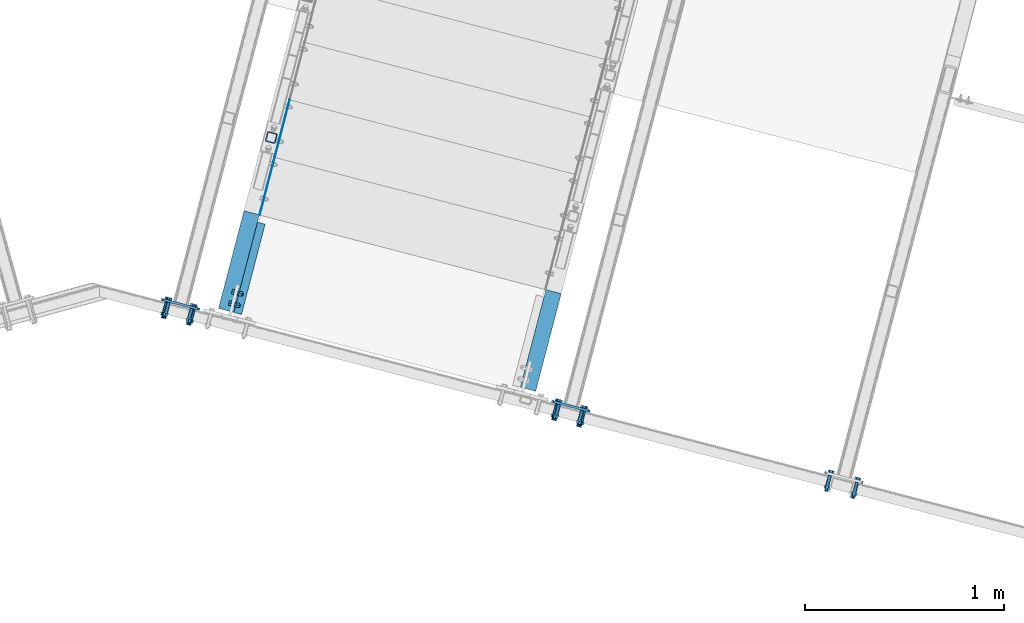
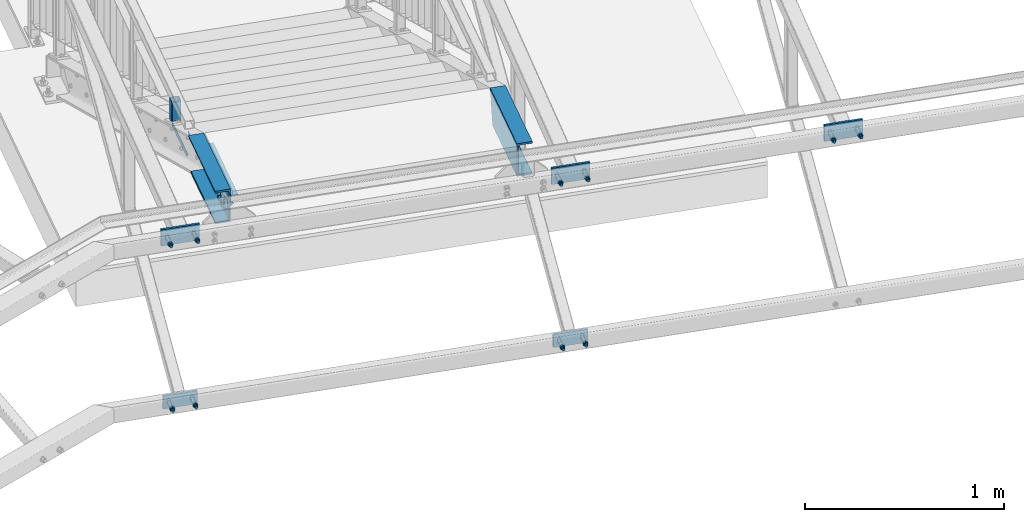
# One storey, part 88 of 169: 11 discrete accessories, 6 mechanical fasteners, 9 elements without a shape of their own.
"""IFC2X3 building model written with IfcOpenShell, lengths in millimetres."""

from ifc_helpers import new_model, si_unit, frame, frame_2d, origin_with_axes, origin_2d_with_axis, place, context, subcontext, project, spatial, polyline, circle_curve, parameter, trimmed, segment, composite_curve, rectangle, hollow_rectangle, circle, l_section, u_section, outline, extrude, boolean, clip, halfspace, source, transform, mapped, material, type_object, element, aggregate, save


model = new_model("IFC2X3")

# Units and contexts
model_context = context("Model", 3, precision=1e-05, world=origin_with_axes())
body_context = subcontext(model_context, "Body", "Model", "MODEL_VIEW")
ifc_project = project(units=[si_unit("LENGTHUNIT", "METRE", prefix="MILLI"), si_unit("AREAUNIT", "SQUARE_METRE"), si_unit("VOLUMEUNIT", "CUBIC_METRE"), si_unit("MASSUNIT", "GRAM", prefix="KILO"), si_unit("TIMEUNIT", "SECOND"), si_unit("PLANEANGLEUNIT", "RADIAN"), si_unit("SOLIDANGLEUNIT", "STERADIAN"), si_unit("THERMODYNAMICTEMPERATUREUNIT", "DEGREE_CELSIUS"), si_unit("LUMINOUSINTENSITYUNIT", "LUMEN")], contexts=[model_context])

# Site, building, storey
site_placement = place(None, origin_with_axes())
site = spatial("IfcSite", under=ifc_project, at=site_placement, Name="Undefined", CompositionType="ELEMENT")
building_placement = place(site_placement, origin_with_axes())
building = spatial("IfcBuilding", under=site, at=building_placement, Name="Undefined", CompositionType="ELEMENT")
storey_placement = place(building_placement, origin_with_axes())
storey = spatial("IfcBuildingStorey", under=building, at=storey_placement, Name="Undefined", CompositionType="ELEMENT", Elevation=0.0)

# Assembly, discrete accessories
assembly_1_placement = place(storey_placement, origin_with_axes())
assembly_1 = element("IfcElementAssembly", 1, at=assembly_1_placement, inside=storey, Name="Steel Assembly", AssemblyPlace="NOTDEFINED", PredefinedType="RIGID_FRAME")
ifc_material_1 = material(Name="STEEL/S235")
discrete_accessory_type_1 = type_object("IfcDiscreteAccessoryType", Name="BLACHA")
discrete_accessory_1_placement = place(assembly_1_placement, frame((-11210.6022412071, 18195.5210194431, 12861.1891737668), z_axis=(0.252628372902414, 0.967563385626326, 0.0), x_axis=(-2.54700353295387e-10, 0.0, -1.0)))
discrete_accessory_1 = element("IfcDiscreteAccessory", 2, at=discrete_accessory_1_placement, type_object=discrete_accessory_type_1, material=ifc_material_1, Name="BLACHA", ObjectType="BL12*180", context=body_context, shape_type="SweptSolid", body=[
    extrude(outline(polyline([(80.0000000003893, 89.9999999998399), (80.0000000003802, -89.9999999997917), (6.18456397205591e-11, -90.0), (-6.3664629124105e-11, 90.0000000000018), (80.0000000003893, 89.9999999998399)])), frame((-1.81898942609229e-12, -1.81898940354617e-12, -5.99999999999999), z_axis=(0.0, 0.0, 1.0), x_axis=(1.0, 0.0, 0.0)), (0.0, 0.0, 1.0), 12.0),
])
discrete_accessory_2_placement = place(assembly_1_placement, frame((-11113.7568732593, 18170.2349376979, 13831.0825631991), z_axis=(0.252628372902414, 0.967563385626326, 0.0), x_axis=(-0.967563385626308, 0.252628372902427, -1.72000000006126e-07)))
discrete_accessory_2 = element("IfcDiscreteAccessory", 3, at=discrete_accessory_2_placement, type_object=discrete_accessory_type_1, material=ifc_material_1, Name="BLACHA", ObjectType="BL12*100", context=body_context, shape_type="SweptSolid", body=[
    extrude(outline(polyline([(200.000000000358, -49.9999999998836), (2.75122147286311e-11, -50.0000000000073), (-2.8421709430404e-11, 50.0000000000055), (200.000000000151, 50.0000000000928), (200.000000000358, -49.9999999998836)])), frame((-1.81898942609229e-12, -1.81898940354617e-12, -5.99999999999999), z_axis=(0.0, 0.0, 1.0), x_axis=(1.0, 0.0, 0.0)), (0.0, 0.0, 1.0), 12.0),
])

# Assembly, discrete accessory
assembly_2_placement = place(storey_placement, origin_with_axes())
assembly_2 = element("IfcElementAssembly", 4, at=assembly_2_placement, inside=storey, Name="Steel Assembly", AssemblyPlace="NOTDEFINED", PredefinedType="RIGID_FRAME")
discrete_accessory_3_placement = place(assembly_2_placement, frame((-9149.52146701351, 17657.3780003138, 13831.0825631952), z_axis=(0.252628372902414, 0.967563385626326, 0.0), x_axis=(-0.967563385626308, 0.252628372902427, -1.72000000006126e-07)))
discrete_accessory_3 = element("IfcDiscreteAccessory", 5, at=discrete_accessory_3_placement, type_object=discrete_accessory_type_1, material=ifc_material_1, Name="BLACHA", ObjectType="BL12*100", context=body_context, shape_type="SweptSolid", body=[
    extrude(outline(polyline([(200.000000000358, -49.9999999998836), (2.75122147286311e-11, -50.0000000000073), (-2.8421709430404e-11, 50.0000000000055), (200.000000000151, 50.0000000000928), (200.000000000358, -49.9999999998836)])), frame((-1.81898942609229e-12, -1.81898940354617e-12, -5.99999999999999), z_axis=(0.0, 0.0, 1.0), x_axis=(1.0, 0.0, 0.0)), (0.0, 0.0, 1.0), 12.0),
])

assembly_3_placement = place(storey_placement, origin_with_axes())
assembly_3 = element("IfcElementAssembly", 6, at=assembly_3_placement, inside=storey, Name="Steel Assembly", AssemblyPlace="NOTDEFINED", PredefinedType="RIGID_FRAME")
discrete_accessory_4_placement = place(assembly_3_placement, frame((-7775.58145943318, 17298.6457107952, 13831.0825631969), z_axis=(0.252628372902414, 0.967563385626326, 0.0), x_axis=(-0.967563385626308, 0.252628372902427, -1.72000000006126e-07)))
discrete_accessory_4 = element("IfcDiscreteAccessory", 7, at=discrete_accessory_4_placement, type_object=discrete_accessory_type_1, material=ifc_material_1, Name="BLACHA", ObjectType="BL12*100", context=body_context, shape_type="SweptSolid", body=[
    extrude(outline(polyline([(200.000000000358, -49.9999999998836), (2.75122147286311e-11, -50.0000000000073), (-2.8421709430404e-11, 50.0000000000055), (200.000000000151, 50.0000000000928), (200.000000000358, -49.9999999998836)])), frame((-1.81898942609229e-12, -1.81898940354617e-12, -5.99999999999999), z_axis=(0.0, 0.0, 1.0), x_axis=(1.0, 0.0, 0.0)), (0.0, 0.0, 1.0), 12.0),
])

# Discrete accessory
discrete_accessory_5_placement = place(assembly_2_placement, frame((-9246.36683559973, 17682.6640822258, 12861.1891737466), z_axis=(0.252628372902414, 0.967563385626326, 0.0), x_axis=(-2.54700353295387e-10, 0.0, -1.0)))
discrete_accessory_5 = element("IfcDiscreteAccessory", 8, at=discrete_accessory_5_placement, type_object=discrete_accessory_type_1, material=ifc_material_1, Name="BLACHA", ObjectType="BL12*180", context=body_context, shape_type="SweptSolid", body=[
    extrude(outline(polyline([(80.0000000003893, 89.9999999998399), (80.0000000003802, -89.9999999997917), (6.18456397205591e-11, -90.0), (-6.3664629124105e-11, 90.0000000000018), (80.0000000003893, 89.9999999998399)])), frame((-1.81898942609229e-12, -1.81898940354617e-12, -5.99999999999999), z_axis=(0.0, 0.0, 1.0), x_axis=(1.0, 0.0, 0.0)), (0.0, 0.0, 1.0), 12.0),
])

# Assembly, discrete accessory
assembly_4_placement = place(storey_placement, origin_with_axes())
assembly_4 = element("IfcElementAssembly", 9, at=assembly_4_placement, inside=storey, Name="Steel Assembly", AssemblyPlace="NOTDEFINED", PredefinedType="RIGID_FRAME")
discrete_accessory_type_2 = type_object("IfcDiscreteAccessoryType", Name="BEAM")
discrete_accessory_6_placement = place(assembly_4_placement, frame((-10922.8515200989, 18149.3074779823, 13980.4176077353), z_axis=(0.967563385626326, -0.252628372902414, 0.0), x_axis=(0.252628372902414, 0.967563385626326, 0.0)))
discrete_accessory_6 = element("IfcDiscreteAccessory", 10, at=discrete_accessory_6_placement, type_object=discrete_accessory_type_2, material=ifc_material_1, Name="BEAM", ObjectType="L40*3", context=body_context, shape_type="SweptSolid", body=[
    extrude(l_section(Depth=40.0, Width=40.0, Thickness=3.0, FilletRadius=6.0, EdgeRadius=3.0, at=origin_2d_with_axis()), frame((469.999999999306, 0.0, 1.30451205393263e-14), z_axis=(-1.0, -3.46944695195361e-18, -1.38777878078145e-17), x_axis=(1.73472347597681e-18, -1.0, 0.0)), (0.0, 0.0, 1.0), 470.0),
])

assembly_5_placement = place(storey_placement, origin_with_axes())
assembly_5 = element("IfcElementAssembly", 11, at=assembly_5_placement, inside=storey, Name="Steel Assembly", AssemblyPlace="NOTDEFINED", PredefinedType="RIGID_FRAME")
discrete_accessory_type_3 = type_object("IfcDiscreteAccessoryType", Name="STANCHION")
discrete_accessory_7_placement = place(assembly_5_placement, frame((-10753.6522776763, 19034.8413914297, 13842.3866981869), z_axis=(0.0, 0.0, 1.0), x_axis=(-0.967563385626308, 0.252628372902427, -1.72000000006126e-07)))
discrete_accessory_7 = element("IfcDiscreteAccessory", 12, at=discrete_accessory_7_placement, type_object=discrete_accessory_type_3, material=ifc_material_1, Name="STANCHION", ObjectType="SHS50*3", context=body_context, shape_type="Clipping", body=[
    clip(clip(extrude(hollow_rectangle(XDim=50.0, YDim=50.0, WallThickness=3.0, InnerFilletRadius=3.0, OuterFilletRadius=6.0, at=origin_2d_with_axis()), frame((0.0, 0.0, 148.03090957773), z_axis=(-2.54700353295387e-10, 0.0, -1.0), x_axis=(0.0, 1.0, 0.0)), (0.0, 0.0, 1.0), 128.51), halfspace(frame((1000.00000000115, 1.43700162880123e-08, 148.03090957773), z_axis=(-2.54700353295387e-10, 0.0, -1.0), x_axis=(0.0, 1.0, 0.0)), True)), halfspace(frame((-24.9999999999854, -7.27595761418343e-12, 19.5210664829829), z_axis=(-8.96961418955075e-10, -0.442122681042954, 0.896954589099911), x_axis=(-4.02729710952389e-10, 0.896954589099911, 0.442122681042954)), True)),
])
aggregate(assembly_5, [discrete_accessory_7])

assembly_6_placement = place(storey_placement, origin_with_axes())
assembly_6 = element("IfcElementAssembly", 13, at=assembly_6_placement, inside=storey, Name="Steel Assembly", AssemblyPlace="NOTDEFINED", PredefinedType="RIGID_FRAME")
ifc_material_2 = material(Name="STEEL/S235JR")
discrete_accessory_type_4 = type_object("IfcDiscreteAccessoryType", Name="ANGLE")
discrete_accessory_8_placement = place(assembly_6_placement, frame((-10812.6535353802, 18644.5944210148, 13838.0060245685), z_axis=(0.967563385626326, -0.252628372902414, 0.0), x_axis=(0.252628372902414, 0.967563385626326, 0.0)))
discrete_accessory_8 = element("IfcDiscreteAccessory", 14, at=discrete_accessory_8_placement, type_object=discrete_accessory_type_4, material=ifc_material_2, Name="ANGLE", ObjectType="3*30", context=body_context, shape_type="CSG", body=[
    boolean("DIFFERENCE", extrude(rectangle(XDim=30.0, YDim=3.0, at=origin_2d_with_axis()), frame((300.000000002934, 1.81898940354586e-12, -1.81898940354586e-12), z_axis=(-1.0, -3.46944695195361e-18, -1.38777878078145e-17), x_axis=(1.73472347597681e-18, -1.0, 0.0)), (0.0, 0.0, 1.0), 300.0), extrude(outline(polyline([(0.0, 0.0), (30.0000000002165, -6.73026079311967e-11), (30.0000000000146, 30.0000000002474), (0.0, 0.0)])), frame((-7.09587991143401e-09, 14.9999999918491, -4.4999999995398), z_axis=(0.0, 0.0, 1.0), x_axis=(1.73472347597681e-18, -1.0, 0.0)), (0.0, 0.0, 1.0), 9.0)),
])
aggregate(assembly_6, [discrete_accessory_8])

assembly_7_placement = place(storey_placement, origin_with_axes())
assembly_7 = element("IfcElementAssembly", 15, at=assembly_7_placement, inside=storey, Name="Steel Assembly", AssemblyPlace="NOTDEFINED", PredefinedType="RIGID_FRAME")
discrete_accessory_9_placement = place(assembly_7_placement, frame((-10737.1023301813, 18933.954555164, 13690.5944414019), z_axis=(0.967563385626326, -0.252628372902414, 0.0), x_axis=(0.252628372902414, 0.967563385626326, 0.0)))
discrete_accessory_9 = element("IfcDiscreteAccessory", 16, at=discrete_accessory_9_placement, type_object=discrete_accessory_type_4, material=ifc_material_2, Name="ANGLE", ObjectType="3*30", context=body_context, shape_type="CSG", body=[
    boolean("DIFFERENCE", extrude(rectangle(XDim=30.0, YDim=3.0, at=origin_2d_with_axis()), frame((300.000000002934, 1.81898940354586e-12, -1.81898940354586e-12), z_axis=(-1.0, -3.46944695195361e-18, -1.38777878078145e-17), x_axis=(1.73472347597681e-18, -1.0, 0.0)), (0.0, 0.0, 1.0), 300.0), extrude(outline(polyline([(0.0, 0.0), (30.0000000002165, -6.73026079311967e-11), (30.0000000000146, 30.0000000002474), (0.0, 0.0)])), frame((-7.09587991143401e-09, 14.9999999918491, -4.4999999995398), z_axis=(0.0, 0.0, 1.0), x_axis=(1.73472347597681e-18, -1.0, 0.0)), (0.0, 0.0, 1.0), 9.0)),
])
aggregate(assembly_7, [discrete_accessory_9])

# Assembly, mechanical fastener
assembly_8_placement = place(storey_placement, origin_with_axes())
assembly_8 = element("IfcElementAssembly", 17, at=assembly_8_placement, inside=storey, Name="Steel Assembly", AssemblyPlace="NOTDEFINED", PredefinedType="RIGID_FRAME")
ifc_material_3 = material(Name="Undefined")
discrete_accessory_type_5 = type_object("IfcDiscreteAccessoryType", Name="Bolt assembly")
shared_shape_1 = source(origin_with_axes(), body_context, "Body", "SweptSolid", [
    extrude(circle(Radius=9.5, at=origin_2d_with_axis()), frame((0.0, 15.8999998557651, 0.0), z_axis=(0.0, 1.0, 0.0), x_axis=(1.0, 0.0, 0.0)), (0.0, 0.0, 1.0), 7.6),
    extrude(outline(composite_curve([segment(polyline([(-20.0, 9.5), (20.0, 9.5)]), True, "CONTINUOUS"), segment(trimmed(circle_curve(frame_2d((20.0, 0.0), x_axis=(0.0, 1.0)), 9.5), [parameter(0.0)], [parameter(3.14159265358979)], False, "PARAMETER"), True, "CONTINUOUS"), segment(polyline([(20.0, -9.5), (-20.0, -9.5)]), True, "CONTINUOUS"), segment(trimmed(circle_curve(frame_2d((-20.0, 0.0), x_axis=(0.0, -1.0)), 9.5), [parameter(0.0)], [parameter(3.14159265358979)], False, "PARAMETER"), True, "DISCONTINUOUS")], self_intersect=False)), frame((0.0, 0.100000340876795, 0.0), z_axis=(0.0, 1.0, 0.0), x_axis=(1.0, 0.0, 0.0)), (0.0, 0.0, 1.0), 16.0),
    extrude(outline(polyline([(13.85640646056, 0.0), (6.92820323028, 12.0000000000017), (-6.92820323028, 12.0000000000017), (-13.85640646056, 0.0), (-6.92820323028, -12.0000000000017), (6.92820323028, -12.0000000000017), (13.85640646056, 0.0)])), frame((0.0, -13.0000060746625, 0.0), z_axis=(0.0, 1.0, 0.0), x_axis=(1.0, 0.0, 0.0)), (0.0, 0.0, 1.0), 10.0),
    extrude(circle(Radius=8.0, at=origin_2d_with_axis()), frame((0.0, -3.00000607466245, 0.0), z_axis=(0.0, 1.0, 0.0), x_axis=(1.0, 0.0, 0.0)), (0.0, 0.0, 1.0), 50.0),
    extrude(circle(Radius=15.0, at=origin_2d_with_axis()), frame((0.0, -3.00000607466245, 0.0), z_axis=(0.0, 1.0, 0.0), x_axis=(1.0, 0.0, 0.0)), (0.0, 0.0, 1.0), 3.0),
    extrude(circle(Radius=15.0, at=origin_2d_with_axis()), frame((0.0, 23.4999998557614, 0.0), z_axis=(0.0, 1.0, 0.0), x_axis=(1.0, 0.0, 0.0)), (0.0, 0.0, 1.0), 3.0),
    extrude(outline(polyline([(13.85640646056, 0.0), (6.92820323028, 12.0000000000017), (-6.92820323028, 12.0000000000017), (-13.85640646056, 0.0), (-6.92820323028, -12.0000000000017), (6.92820323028, -12.0000000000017), (13.85640646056, 0.0)])), frame((0.0, 26.4999998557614, 0.0), z_axis=(0.0, 1.0, 0.0), x_axis=(1.0, 0.0, 0.0)), (0.0, 0.0, 1.0), 13.0),
])
mechanical_fastener_1_placement = place(assembly_8_placement, frame((-10947.25135354, 18228.0461176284, 13925.4176077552), z_axis=(0.252628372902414, 0.967563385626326, 0.0), x_axis=(0.0, 0.0, 1.0)))
mechanical_fastener_1 = element("IfcMechanicalFastener", 18, at=mechanical_fastener_1_placement, type_object=discrete_accessory_type_5, material=ifc_material_3, Name="Bolt assembly", NominalDiameter=16.0, NominalLength=50.0, context=body_context, shape_type="MappedRepresentation", body=[
    mapped(shared_shape_1, transform((0.0, -1.45519152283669e-11, -30.0000000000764))),
    mapped(shared_shape_1, transform((0.0, 1.45519152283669e-11, 30.0000000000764))),
])
aggregate(assembly_8, [mechanical_fastener_1])

# Assembly, discrete accessory
assembly_9_placement = place(storey_placement, origin_with_axes())
assembly_9 = element("IfcElementAssembly", 19, at=assembly_9_placement, inside=storey, Name="Steel Assembly", AssemblyPlace="NOTDEFINED", PredefinedType="RIGID_FRAME")
discrete_accessory_type_6 = type_object("IfcDiscreteAccessoryType", Name="BELKA")
discrete_accessory_10_placement = place(assembly_9_placement, frame((-9461.83080789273, 17767.8386348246, 13940.4176077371), z_axis=(0.0, 0.0, 1.0), x_axis=(0.252628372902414, 0.967563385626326, 0.0)))
discrete_accessory_10 = element("IfcDiscreteAccessory", 20, at=discrete_accessory_10_placement, type_object=discrete_accessory_type_6, material=ifc_material_1, Name="BELKA", ObjectType="UPE200", context=body_context, shape_type="Clipping", body=[
    clip(extrude(u_section(Depth=200.0, FlangeWidth=80.0, WebThickness=7.5, FlangeThickness=11.0, FilletRadius=12.0, EdgeRadius=3.0, at=origin_2d_with_axis()), frame((547.733598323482, 0.0, -1.81898940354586e-12), z_axis=(-1.0, -3.46944695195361e-18, -1.38777878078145e-17), x_axis=(1.73472347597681e-18, -1.0, 0.0)), (0.0, 0.0, 1.0), 547.73), halfspace(frame((508.000000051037, -39.9999987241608, 99.9999999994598), z_axis=(-0.973897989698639, 0.0, 0.226986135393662), x_axis=(1.73472347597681e-18, -1.0, 0.0)), True)),
])
aggregate(assembly_9, [discrete_accessory_10])

# Discrete accessory
discrete_accessory_11_placement = place(assembly_4_placement, frame((-10852.5701098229, 18655.9873802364, 13940.4176077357), z_axis=(0.0, 0.0, 1.0), x_axis=(-0.252628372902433, -0.967563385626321, 0.0)))
discrete_accessory_11 = element("IfcDiscreteAccessory", 21, at=discrete_accessory_11_placement, type_object=discrete_accessory_type_6, material=ifc_material_1, Name="BELKA", ObjectType="UPE200", context=body_context, shape_type="Clipping", body=[
    clip(extrude(u_section(Depth=200.0, FlangeWidth=80.0, WebThickness=7.5, FlangeThickness=11.0, FilletRadius=12.0, EdgeRadius=3.0, at=origin_2d_with_axis()), frame((508.000000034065, 0.0, -1.81898940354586e-12), z_axis=(-1.0, -3.46944695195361e-18, -1.38777878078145e-17), x_axis=(1.73472347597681e-18, -1.0, 0.0)), (0.0, 0.0, 1.0), 547.73), halfspace(frame((6.09808921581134e-07, -40.0000000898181, 100.000000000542), z_axis=(-0.97389798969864, -1.77151012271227e-15, -0.226986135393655), x_axis=(1.73472347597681e-18, -1.0, 0.0)), False)),
])

aggregate(assembly_4, [discrete_accessory_11, discrete_accessory_6])

# Mechanical fastener
shared_shape_2 = source(origin_with_axes(), body_context, "Body", "SweptSolid", [
    extrude(circle(Radius=9.5, at=origin_2d_with_axis()), frame((0.0, 3.40000044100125, 0.0), z_axis=(0.0, 1.0, 0.0), x_axis=(1.0, 0.0, 0.0)), (0.0, 0.0, 1.0), 54.1),
    extrude(outline(composite_curve([segment(polyline([(-10.0, 9.5), (10.0, 9.5)]), True, "CONTINUOUS"), segment(trimmed(circle_curve(frame_2d((10.0, 0.0), x_axis=(0.0, 1.0)), 9.5), [parameter(0.0)], [parameter(3.14159265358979)], False, "PARAMETER"), True, "CONTINUOUS"), segment(polyline([(10.0, -9.5), (-10.0, -9.5)]), True, "CONTINUOUS"), segment(trimmed(circle_curve(frame_2d((-10.0, 0.0), x_axis=(0.0, -1.0)), 9.5), [parameter(0.0)], [parameter(3.14159265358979)], False, "PARAMETER"), True, "DISCONTINUOUS")], self_intersect=False)), frame((0.0, -9.40000000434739, 0.0), z_axis=(0.0, 1.0, 0.0), x_axis=(1.0, 0.0, 0.0)), (0.0, 0.0, 1.0), 12.0),
    extrude(outline(polyline([(13.85640646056, 0.0), (6.92820323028, 12.0000000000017), (-6.92820323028, 12.0000000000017), (-13.85640646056, 0.0), (-6.92820323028, -12.0000000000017), (6.92820323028, -12.0000000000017), (13.85640646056, 0.0)])), frame((0.0, -22.5000000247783, 0.0), z_axis=(0.0, 1.0, 0.0), x_axis=(1.0, 0.0, 0.0)), (0.0, 0.0, 1.0), 10.0),
    extrude(circle(Radius=8.0, at=origin_2d_with_axis()), frame((0.0, -12.5000000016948, 0.0), z_axis=(0.0, 1.0, 0.0), x_axis=(1.0, 0.0, 0.0)), (0.0, 0.0, 1.0), 100.0),
    extrude(circle(Radius=15.0, at=origin_2d_with_axis()), frame((0.0, -12.5000000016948, 0.0), z_axis=(0.0, 1.0, 0.0), x_axis=(1.0, 0.0, 0.0)), (0.0, 0.0, 1.0), 3.0),
    extrude(circle(Radius=15.0, at=origin_2d_with_axis()), frame((0.0, 57.500000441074, 0.0), z_axis=(0.0, 1.0, 0.0), x_axis=(1.0, 0.0, 0.0)), (0.0, 0.0, 1.0), 3.0),
    extrude(outline(polyline([(13.85640646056, 0.0), (6.92820323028, 12.0000000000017), (-6.92820323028, 12.0000000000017), (-13.85640646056, 0.0), (-6.92820323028, -12.0000000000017), (6.92820323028, -12.0000000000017), (13.85640646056, 0.0)])), frame((0.0, 60.500000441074, 0.0), z_axis=(0.0, 1.0, 0.0), x_axis=(1.0, 0.0, 0.0)), (0.0, 0.0, 1.0), 13.0),
])
mechanical_fastener_2_placement = place(assembly_1_placement, frame((-11211.4864405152, 18192.1345475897, 12787.306464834), z_axis=(0.967563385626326, -0.252628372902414, 0.0), x_axis=(0.0, 0.0, 1.0)))
mechanical_fastener_2 = element("IfcMechanicalFastener", 22, at=mechanical_fastener_2_placement, type_object=discrete_accessory_type_5, material=ifc_material_3, Name="Bolt assembly", NominalDiameter=16.0, NominalLength=100.0, context=body_context, shape_type="MappedRepresentation", body=[
    mapped(shared_shape_2, transform((33.8827095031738, 2.5465851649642e-11, -59.9999999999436))),
    mapped(shared_shape_2, transform((33.8827095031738, -2.72848410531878e-11, 59.9999999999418))),
])

shared_shape_3 = source(origin_with_axes(), body_context, "Body", "SweptSolid", [
    extrude(circle(Radius=9.5, at=origin_2d_with_axis()), frame((0.0, 3.40000044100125, 0.0), z_axis=(0.0, 1.0, 0.0), x_axis=(1.0, 0.0, 0.0)), (0.0, 0.0, 1.0), 54.1),
    extrude(outline(composite_curve([segment(polyline([(9.5, 10.0), (9.5, -10.0)]), True, "CONTINUOUS"), segment(trimmed(circle_curve(frame_2d((0.0, -10.0), x_axis=(1.0, 0.0)), 9.5), [parameter(0.0)], [parameter(3.14159265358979)], False, "PARAMETER"), True, "CONTINUOUS"), segment(polyline([(-9.5, -10.0), (-9.5, 10.0)]), True, "CONTINUOUS"), segment(trimmed(circle_curve(frame_2d((0.0, 10.0), x_axis=(-1.0, 0.0)), 9.5), [parameter(0.0)], [parameter(3.14159265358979)], False, "PARAMETER"), True, "DISCONTINUOUS")], self_intersect=False)), frame((0.0, -9.40000000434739, 0.0), z_axis=(0.0, 1.0, 0.0), x_axis=(1.0, 0.0, 0.0)), (0.0, 0.0, 1.0), 12.0),
    extrude(outline(polyline([(13.85640646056, 0.0), (6.92820323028, 12.0000000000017), (-6.92820323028, 12.0000000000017), (-13.85640646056, 0.0), (-6.92820323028, -12.0000000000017), (6.92820323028, -12.0000000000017), (13.85640646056, 0.0)])), frame((0.0, -22.5000000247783, 0.0), z_axis=(0.0, 1.0, 0.0), x_axis=(1.0, 0.0, 0.0)), (0.0, 0.0, 1.0), 10.0),
    extrude(circle(Radius=8.0, at=origin_2d_with_axis()), frame((0.0, -12.5000000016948, 0.0), z_axis=(0.0, 1.0, 0.0), x_axis=(1.0, 0.0, 0.0)), (0.0, 0.0, 1.0), 100.0),
    extrude(circle(Radius=15.0, at=origin_2d_with_axis()), frame((0.0, -12.5000000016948, 0.0), z_axis=(0.0, 1.0, 0.0), x_axis=(1.0, 0.0, 0.0)), (0.0, 0.0, 1.0), 3.0),
    extrude(circle(Radius=15.0, at=origin_2d_with_axis()), frame((0.0, 57.500000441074, 0.0), z_axis=(0.0, 1.0, 0.0), x_axis=(1.0, 0.0, 0.0)), (0.0, 0.0, 1.0), 3.0),
    extrude(outline(polyline([(13.85640646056, 0.0), (6.92820323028, 12.0000000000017), (-6.92820323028, 12.0000000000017), (-13.85640646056, 0.0), (-6.92820323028, -12.0000000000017), (6.92820323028, -12.0000000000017), (13.85640646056, 0.0)])), frame((0.0, 60.500000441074, 0.0), z_axis=(0.0, 1.0, 0.0), x_axis=(1.0, 0.0, 0.0)), (0.0, 0.0, 1.0), 13.0),
])
mechanical_fastener_3_placement = place(assembly_1_placement, frame((-11250.0999468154, 18202.2164369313, 13821.0825631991), z_axis=(-2.54700353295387e-10, 0.0, -1.0), x_axis=(0.967563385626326, -0.252628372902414, 0.0)))
mechanical_fastener_3 = element("IfcMechanicalFastener", 23, at=mechanical_fastener_3_placement, type_object=discrete_accessory_type_5, material=ifc_material_3, Name="Bolt assembly", NominalDiameter=16.0, NominalLength=100.0, context=body_context, shape_type="MappedRepresentation", body=[
    mapped(shared_shape_3, transform((-29.9999999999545, 0.0, -10.0))),
    mapped(shared_shape_3, transform((109.999999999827, -3.63797880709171e-12, -10.0))),
])

aggregate(assembly_1, [mechanical_fastener_2, discrete_accessory_1, mechanical_fastener_3, discrete_accessory_2])

shared_shape_4 = source(origin_with_axes(), body_context, "Body", "SweptSolid", [
    extrude(circle(Radius=9.5, at=origin_2d_with_axis()), frame((0.0, 3.40000044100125, 0.0), z_axis=(0.0, 1.0, 0.0), x_axis=(1.0, 0.0, 0.0)), (0.0, 0.0, 1.0), 54.1),
    extrude(outline(composite_curve([segment(polyline([(9.5, 10.0), (9.5, -10.0)]), True, "CONTINUOUS"), segment(trimmed(circle_curve(frame_2d((0.0, -10.0), x_axis=(1.0, 0.0)), 9.5), [parameter(0.0)], [parameter(3.14159265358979)], False, "PARAMETER"), True, "CONTINUOUS"), segment(polyline([(-9.5, -10.0), (-9.5, 10.0)]), True, "CONTINUOUS"), segment(trimmed(circle_curve(frame_2d((0.0, 10.0), x_axis=(-1.0, 0.0)), 9.5), [parameter(0.0)], [parameter(3.14159265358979)], False, "PARAMETER"), True, "DISCONTINUOUS")], self_intersect=False)), frame((0.0, -9.40000000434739, 0.0), z_axis=(0.0, 1.0, 0.0), x_axis=(1.0, 0.0, 0.0)), (0.0, 0.0, 1.0), 12.0),
    extrude(outline(polyline([(13.85640646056, 0.0), (6.92820323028, 12.0000000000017), (-6.92820323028, 12.0000000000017), (-13.85640646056, 0.0), (-6.92820323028, -12.0000000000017), (6.92820323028, -12.0000000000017), (13.85640646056, 0.0)])), frame((0.0, -22.5000000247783, 0.0), z_axis=(0.0, 1.0, 0.0), x_axis=(1.0, 0.0, 0.0)), (0.0, 0.0, 1.0), 10.0),
    extrude(circle(Radius=8.0, at=origin_2d_with_axis()), frame((0.0, -12.5000000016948, 0.0), z_axis=(0.0, 1.0, 0.0), x_axis=(1.0, 0.0, 0.0)), (0.0, 0.0, 1.0), 100.0),
    extrude(circle(Radius=15.0, at=origin_2d_with_axis()), frame((0.0, -12.5000000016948, 0.0), z_axis=(0.0, 1.0, 0.0), x_axis=(1.0, 0.0, 0.0)), (0.0, 0.0, 1.0), 3.0),
    extrude(circle(Radius=15.0, at=origin_2d_with_axis()), frame((0.0, 57.500000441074, 0.0), z_axis=(0.0, 1.0, 0.0), x_axis=(1.0, 0.0, 0.0)), (0.0, 0.0, 1.0), 3.0),
    extrude(outline(polyline([(13.85640646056, 0.0), (6.92820323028, 12.0000000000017), (-6.92820323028, 12.0000000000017), (-13.85640646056, 0.0), (-6.92820323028, -12.0000000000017), (6.92820323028, -12.0000000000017), (13.85640646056, 0.0)])), frame((0.0, 60.500000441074, 0.0), z_axis=(0.0, 1.0, 0.0), x_axis=(1.0, 0.0, 0.0)), (0.0, 0.0, 1.0), 13.0),
])
mechanical_fastener_4_placement = place(assembly_2_placement, frame((-9285.86454056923, 17689.3594995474, 13821.0825631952), z_axis=(-2.54700353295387e-10, 0.0, -1.0), x_axis=(0.967563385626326, -0.252628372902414, 0.0)))
mechanical_fastener_4 = element("IfcMechanicalFastener", 24, at=mechanical_fastener_4_placement, type_object=discrete_accessory_type_5, material=ifc_material_3, Name="Bolt assembly", NominalDiameter=16.0, NominalLength=100.0, context=body_context, shape_type="MappedRepresentation", body=[
    mapped(shared_shape_4, transform((-29.9999999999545, 0.0, -10.0))),
    mapped(shared_shape_4, transform((109.999999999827, -3.63797880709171e-12, -10.0))),
])

shared_shape_5 = source(origin_with_axes(), body_context, "Body", "SweptSolid", [
    extrude(circle(Radius=9.5, at=origin_2d_with_axis()), frame((0.0, 3.40000044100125, 0.0), z_axis=(0.0, 1.0, 0.0), x_axis=(1.0, 0.0, 0.0)), (0.0, 0.0, 1.0), 54.1),
    extrude(outline(composite_curve([segment(polyline([(9.5, 10.0), (9.5, -10.0)]), True, "CONTINUOUS"), segment(trimmed(circle_curve(frame_2d((0.0, -10.0), x_axis=(1.0, 0.0)), 9.5), [parameter(0.0)], [parameter(3.14159265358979)], False, "PARAMETER"), True, "CONTINUOUS"), segment(polyline([(-9.5, -10.0), (-9.5, 10.0)]), True, "CONTINUOUS"), segment(trimmed(circle_curve(frame_2d((0.0, 10.0), x_axis=(-1.0, 0.0)), 9.5), [parameter(0.0)], [parameter(3.14159265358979)], False, "PARAMETER"), True, "DISCONTINUOUS")], self_intersect=False)), frame((0.0, -9.40000000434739, 0.0), z_axis=(0.0, 1.0, 0.0), x_axis=(1.0, 0.0, 0.0)), (0.0, 0.0, 1.0), 12.0),
    extrude(outline(polyline([(13.85640646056, 0.0), (6.92820323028, 12.0000000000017), (-6.92820323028, 12.0000000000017), (-13.85640646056, 0.0), (-6.92820323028, -12.0000000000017), (6.92820323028, -12.0000000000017), (13.85640646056, 0.0)])), frame((0.0, -22.5000000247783, 0.0), z_axis=(0.0, 1.0, 0.0), x_axis=(1.0, 0.0, 0.0)), (0.0, 0.0, 1.0), 10.0),
    extrude(circle(Radius=8.0, at=origin_2d_with_axis()), frame((0.0, -12.5000000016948, 0.0), z_axis=(0.0, 1.0, 0.0), x_axis=(1.0, 0.0, 0.0)), (0.0, 0.0, 1.0), 100.0),
    extrude(circle(Radius=15.0, at=origin_2d_with_axis()), frame((0.0, -12.5000000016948, 0.0), z_axis=(0.0, 1.0, 0.0), x_axis=(1.0, 0.0, 0.0)), (0.0, 0.0, 1.0), 3.0),
    extrude(circle(Radius=15.0, at=origin_2d_with_axis()), frame((0.0, 57.500000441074, 0.0), z_axis=(0.0, 1.0, 0.0), x_axis=(1.0, 0.0, 0.0)), (0.0, 0.0, 1.0), 3.0),
    extrude(outline(polyline([(13.85640646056, 0.0), (6.92820323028, 12.0000000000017), (-6.92820323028, 12.0000000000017), (-13.85640646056, 0.0), (-6.92820323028, -12.0000000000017), (6.92820323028, -12.0000000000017), (13.85640646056, 0.0)])), frame((0.0, 60.500000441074, 0.0), z_axis=(0.0, 1.0, 0.0), x_axis=(1.0, 0.0, 0.0)), (0.0, 0.0, 1.0), 13.0),
])
mechanical_fastener_5_placement = place(assembly_3_placement, frame((-7911.9245329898, 17330.6272100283, 13821.0825631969), z_axis=(-2.54700353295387e-10, 0.0, -1.0), x_axis=(0.967563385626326, -0.252628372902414, 0.0)))
mechanical_fastener_5 = element("IfcMechanicalFastener", 25, at=mechanical_fastener_5_placement, type_object=discrete_accessory_type_5, material=ifc_material_3, Name="Bolt assembly", NominalDiameter=16.0, NominalLength=100.0, context=body_context, shape_type="MappedRepresentation", body=[
    mapped(shared_shape_5, transform((-29.9999999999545, 0.0, -10.0))),
    mapped(shared_shape_5, transform((109.999999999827, -3.63797880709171e-12, -10.0))),
])

aggregate(assembly_3, [mechanical_fastener_5, discrete_accessory_4])

shared_shape_6 = source(origin_with_axes(), body_context, "Body", "SweptSolid", [
    extrude(circle(Radius=9.5, at=origin_2d_with_axis()), frame((0.0, 3.40000044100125, 0.0), z_axis=(0.0, 1.0, 0.0), x_axis=(1.0, 0.0, 0.0)), (0.0, 0.0, 1.0), 54.1),
    extrude(outline(composite_curve([segment(polyline([(-10.0, 9.5), (10.0, 9.5)]), True, "CONTINUOUS"), segment(trimmed(circle_curve(frame_2d((10.0, 0.0), x_axis=(0.0, 1.0)), 9.5), [parameter(0.0)], [parameter(3.14159265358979)], False, "PARAMETER"), True, "CONTINUOUS"), segment(polyline([(10.0, -9.5), (-10.0, -9.5)]), True, "CONTINUOUS"), segment(trimmed(circle_curve(frame_2d((-10.0, 0.0), x_axis=(0.0, -1.0)), 9.5), [parameter(0.0)], [parameter(3.14159265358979)], False, "PARAMETER"), True, "DISCONTINUOUS")], self_intersect=False)), frame((0.0, -9.40000000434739, 0.0), z_axis=(0.0, 1.0, 0.0), x_axis=(1.0, 0.0, 0.0)), (0.0, 0.0, 1.0), 12.0),
    extrude(outline(polyline([(13.85640646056, 0.0), (6.92820323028, 12.0000000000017), (-6.92820323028, 12.0000000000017), (-13.85640646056, 0.0), (-6.92820323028, -12.0000000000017), (6.92820323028, -12.0000000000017), (13.85640646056, 0.0)])), frame((0.0, -22.5000000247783, 0.0), z_axis=(0.0, 1.0, 0.0), x_axis=(1.0, 0.0, 0.0)), (0.0, 0.0, 1.0), 10.0),
    extrude(circle(Radius=8.0, at=origin_2d_with_axis()), frame((0.0, -12.5000000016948, 0.0), z_axis=(0.0, 1.0, 0.0), x_axis=(1.0, 0.0, 0.0)), (0.0, 0.0, 1.0), 100.0),
    extrude(circle(Radius=15.0, at=origin_2d_with_axis()), frame((0.0, -12.5000000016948, 0.0), z_axis=(0.0, 1.0, 0.0), x_axis=(1.0, 0.0, 0.0)), (0.0, 0.0, 1.0), 3.0),
    extrude(circle(Radius=15.0, at=origin_2d_with_axis()), frame((0.0, 57.500000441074, 0.0), z_axis=(0.0, 1.0, 0.0), x_axis=(1.0, 0.0, 0.0)), (0.0, 0.0, 1.0), 3.0),
    extrude(outline(polyline([(13.85640646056, 0.0), (6.92820323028, 12.0000000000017), (-6.92820323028, 12.0000000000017), (-13.85640646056, 0.0), (-6.92820323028, -12.0000000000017), (6.92820323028, -12.0000000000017), (13.85640646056, 0.0)])), frame((0.0, 60.500000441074, 0.0), z_axis=(0.0, 1.0, 0.0), x_axis=(1.0, 0.0, 0.0)), (0.0, 0.0, 1.0), 13.0),
])
mechanical_fastener_6_placement = place(assembly_2_placement, frame((-9247.2510349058, 17679.277610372, 12787.3064648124), z_axis=(0.967563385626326, -0.252628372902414, 0.0), x_axis=(0.0, 0.0, 1.0)))
mechanical_fastener_6 = element("IfcMechanicalFastener", 26, at=mechanical_fastener_6_placement, type_object=discrete_accessory_type_5, material=ifc_material_3, Name="Bolt assembly", NominalDiameter=16.0, NominalLength=100.0, context=body_context, shape_type="MappedRepresentation", body=[
    mapped(shared_shape_6, transform((33.8827095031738, 2.5465851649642e-11, -59.9999999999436))),
    mapped(shared_shape_6, transform((33.8827095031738, -2.72848410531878e-11, 59.9999999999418))),
])

aggregate(assembly_2, [mechanical_fastener_4, discrete_accessory_3, mechanical_fastener_6, discrete_accessory_5])

save(model, "model.ifc")
